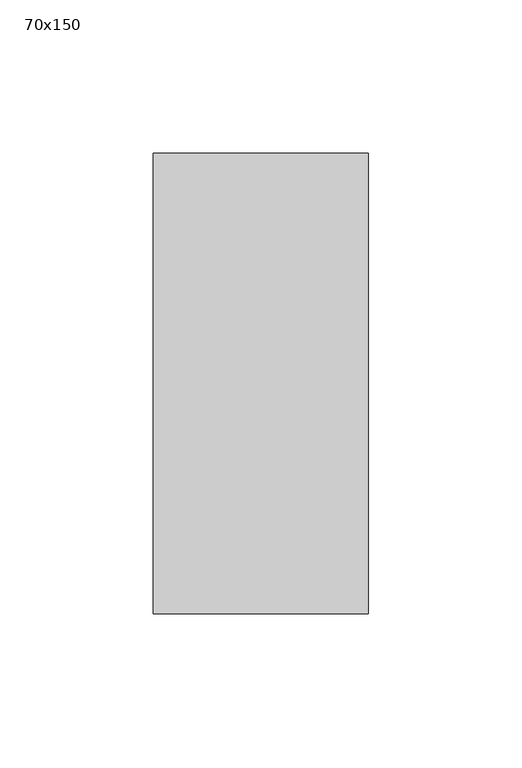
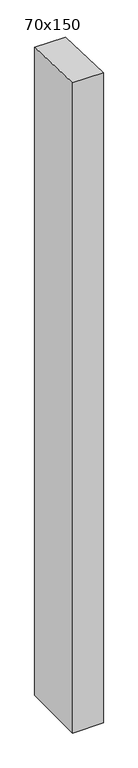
"""IFC4 building model written with IfcOpenShell, lengths in millimetres: member geometry, 長方形のマリオン : 70x150."""

import ifcopenshell
import ifcopenshell.guid

model = None  # the IFC model being written
_history = None  # IfcOwnerHistory: only IFC2X3 demands one
_inside = {}  # id of a spatial element -> (the spatial element, [elements in it])
_under = {}  # id of a project, library or spatial element -> (it, [spatial elements below it])
_declared = {}  # id of a project -> (the project, [libraries it declares])
_typed = {}  # id of a type object -> (the type object, [elements of that type])
_made_of = {}  # id of a material, layer set ... -> (it, [elements and type objects made of it])


def new_model(schema):
    """Start an empty IFC model of exactly this schema.

    Asked for "IFC4X3", IfcOpenShell would pick the latest addendum, in which some entities
    have other attributes; the version numbers below select the first issue.
    IFC2X3 requires an IfcOwnerHistory on every rooted entity: one is made here for all.
    """
    global model, _history
    if schema == "IFC4X3":
        model = ifcopenshell.file(schema_version=(4, 3, 0, 0))
    else:
        model = ifcopenshell.file(schema=schema)
    _inside.clear()
    _under.clear()
    _declared.clear()
    _typed.clear()
    _made_of.clear()
    _history = None
    if model.schema == "IFC2X3":
        org = make("IfcOrganization", Name="unknown")
        user = make(
            "IfcPersonAndOrganization",
            ThePerson=make("IfcPerson", FamilyName="unknown"),
            TheOrganization=org,
        )
        app = make(
            "IfcApplication",
            ApplicationDeveloper=org,
            Version="unknown",
            ApplicationFullName="unknown",
            ApplicationIdentifier="unknown",
        )
        _history = make(
            "IfcOwnerHistory",
            OwningUser=user,
            OwningApplication=app,
            ChangeAction="ADDED",
            CreationDate=0,
        )
    return model


def make(cls, **values):
    """One entity of the class cls with the attributes given. An attribute that is None is left unset."""
    return model.create_entity(
        cls, **{name: value for name, value in values.items() if value is not None}
    )


def rooted(cls, **values):
    """An entity with a GlobalId (a new one), such as an element, a storey or a relation."""
    return make(cls, GlobalId=ifcopenshell.guid.new(), OwnerHistory=_history, **values)


def si_unit(unit_type, name, prefix=None):
    """IfcSIUnit, for example si_unit("LENGTHUNIT", "METRE", prefix="MILLI")."""
    return make("IfcSIUnit", UnitType=unit_type, Prefix=prefix, Name=name)


def assignment(units):
    """IfcUnitAssignment: the units of a project."""
    return None if units is None else make("IfcUnitAssignment", Units=units)


def point(xyz):
    """IfcCartesianPoint."""
    return None if xyz is None else make("IfcCartesianPoint", Coordinates=xyz)


def direction(xyz):
    """IfcDirection."""
    return None if xyz is None else make("IfcDirection", DirectionRatios=xyz)


def frame(location, z_axis=None, x_axis=None):
    """IfcAxis2Placement3D, a coordinate frame: its origin and axes. An axis left out is left unset."""
    return make(
        "IfcAxis2Placement3D",
        Location=point(location),
        Axis=direction(z_axis),
        RefDirection=direction(x_axis),
    )


def origin():
    """The frame at (0, 0, 0) with its axes left unset."""
    return frame((0.0, 0.0, 0.0))


def place(relative_to, where):
    """IfcLocalPlacement: puts the frame where relative to a parent placement (None: the world)."""
    return make(
        "IfcLocalPlacement", PlacementRelTo=relative_to, RelativePlacement=where
    )


def context(
    kind, dimensions, precision=None, world=None, true_north=None, identifier=None
):
    """IfcGeometricRepresentationContext, for example the 3D "Model" context."""
    return make(
        "IfcGeometricRepresentationContext",
        ContextIdentifier=identifier,
        ContextType=kind,
        CoordinateSpaceDimension=dimensions,
        Precision=precision,
        WorldCoordinateSystem=world,
        TrueNorth=true_north,
    )


def project(units=None, contexts=None):
    """IfcProject with its units and contexts."""
    return rooted(
        "IfcProject",
        Name="project",
        RepresentationContexts=contexts,
        UnitsInContext=assignment(units),
    )


def spatial(cls, under=None, at=None, **own):
    """A site, building, storey or space (cls), placed at a placement, below another one or the project."""
    s = rooted(cls, ObjectPlacement=at, **own)
    if under is not None:
        _under.setdefault(under.id(), (under, []))[1].append(s)
    return s


def polyline(points):
    """IfcPolyline through the points."""
    return make("IfcPolyline", Points=[point(p) for p in points])


def outline(outer, holes=None, kind="AREA"):
    """IfcArbitraryClosedProfileDef: a profile drawn as a closed curve; with holes, ...WithVoids."""
    if holes is None:
        return make("IfcArbitraryClosedProfileDef", ProfileType=kind, OuterCurve=outer)
    return make(
        "IfcArbitraryProfileDefWithVoids",
        ProfileType=kind,
        OuterCurve=outer,
        InnerCurves=holes,
    )


def extrude(swept, where, along, depth):
    """IfcExtrudedAreaSolid: the profile swept, set in the frame where, extruded along a direction by depth."""
    return make(
        "IfcExtrudedAreaSolid",
        SweptArea=swept,
        Position=where,
        ExtrudedDirection=direction(along),
        Depth=depth,
    )


def shape(context_of_items, identifier, shape_type, items):
    """IfcShapeRepresentation: the items that make up one representation, for example the "Body"."""
    return make(
        "IfcShapeRepresentation",
        ContextOfItems=context_of_items,
        RepresentationIdentifier=identifier,
        RepresentationType=shape_type,
        Items=items,
    )


def source(mapping_origin, context_of_items, identifier, shape_type, items):
    """IfcRepresentationMap: a shape defined once, which mapped items show again and again."""
    return make(
        "IfcRepresentationMap",
        MappingOrigin=mapping_origin,
        MappedRepresentation=shape(context_of_items, identifier, shape_type, items),
    )


def transform(
    local_origin,
    x_axis=None,
    y_axis=None,
    z_axis=None,
    scale=None,
    scale2=None,
    scale3=None,
    uniform=True,
):
    """IfcCartesianTransformationOperator3D, or its non-uniform kind. x_axis, y_axis, z_axis: its Axis1, 2, 3."""
    if uniform:
        return make(
            "IfcCartesianTransformationOperator3D",
            Axis1=direction(x_axis),
            Axis2=direction(y_axis),
            LocalOrigin=point(local_origin),
            Scale=scale,
            Axis3=direction(z_axis),
        )
    return make(
        "IfcCartesianTransformationOperator3DnonUniform",
        Axis1=direction(x_axis),
        Axis2=direction(y_axis),
        LocalOrigin=point(local_origin),
        Scale=scale,
        Axis3=direction(z_axis),
        Scale2=scale2,
        Scale3=scale3,
    )


def mapped(mapping_source, mapping_target):
    """IfcMappedItem: shows the shape of a source again, moved by a transform."""
    return make(
        "IfcMappedItem", MappingSource=mapping_source, MappingTarget=mapping_target
    )


def made_of(thing, what):
    """Note that an element or type object is made of a material, layer set ...; save() writes the relation."""
    if what is not None:
        _made_of.setdefault(what.id(), (what, []))[1].append(thing)
    return thing


def element(
    cls,
    number,
    at=None,
    inside=None,
    cuts=None,
    type_object=None,
    material=None,
    context=None,
    identifier="Body",
    shape_type=None,
    held_by="IfcProductDefinitionShape",
    body=None,
    shapes=None,
    **own,
):
    """One element of the class cls, such as IfcWall. Its Tag is "e" and its number.

    at: its placement. inside: the storey or other place that contains it. cuts: it is an
    opening in that element (IfcRelVoidsElement). A single representation is given by context,
    identifier, shape_type and body (its items); several are given by shapes. held_by: the class
    of the entity that holds the representations. save() writes the other relations.
    """
    e = rooted(cls, Tag="e%d" % number, ObjectPlacement=at, **own)
    if body is not None:
        shapes = [shape(context, identifier, shape_type, body)]
    if shapes is not None:
        e.Representation = make(held_by, Representations=shapes)
    if inside is not None:
        _inside.setdefault(inside.id(), (inside, []))[1].append(e)
    if cuts is not None:
        rooted(
            "IfcRelVoidsElement", RelatingBuildingElement=cuts, RelatedOpeningElement=e
        )
    if type_object is not None:
        _typed.setdefault(type_object.id(), (type_object, []))[1].append(e)
    return made_of(e, material)


def aggregate(whole, parts):
    """IfcRelAggregates: a whole, such as a stair, and the parts it consists of."""
    return rooted("IfcRelAggregates", RelatingObject=whole, RelatedObjects=parts)


def save(model, path):
    """Write the relations noted so far, then the file.

    IfcRelAggregates (storeys below a building ...), IfcRelContainedInSpatialStructure (elements
    in a storey), IfcRelDefinesByType, IfcRelAssociatesMaterial and IfcRelDeclares: one each for
    every whole, place, type object, material and project.
    """
    for whole, parts in _under.values():
        aggregate(whole, parts)
    for where, things in _inside.values():
        rooted(
            "IfcRelContainedInSpatialStructure",
            RelatedElements=things,
            RelatingStructure=where,
        )
    for kind, things in _typed.values():
        rooted("IfcRelDefinesByType", RelatedObjects=things, RelatingType=kind)
    for what, things in _made_of.values():
        rooted("IfcRelAssociatesMaterial", RelatedObjects=things, RelatingMaterial=what)
    for by, libraries in _declared.values():
        rooted("IfcRelDeclares", RelatingContext=by, RelatedDefinitions=libraries)
    model.write(path)


def member_70x150_10f8ced3(model_context):
    return source(origin(), model_context, "Body", "SweptSolid", [
        extrude(outline(polyline([(-75.0, 2.8650935), (75.0, -2.8650935), (75.0, -1565.5679589), (-75.0, -1565.5679589), (-75.0, 2.8650935)])), frame((-70.0, 0.0, 0.0), z_axis=(1.0, 0.0, 0.0), x_axis=(0.0, 1.0, 0.0)), (0.0, 0.0, 1.0), 70.0),
    ])


if __name__ == "__main__":
    model = new_model("IFC4")
    model_context = context("Model", 3, world=origin())
    ifc_project = project(units=[si_unit("LENGTHUNIT", "METRE", prefix="MILLI")], contexts=[model_context])
    site = spatial("IfcSite", under=ifc_project)
    building = spatial("IfcBuilding", under=site)
    placement = place(None, origin())
    member_70x150_shape = member_70x150_10f8ced3(model_context)
    element("IfcMember", 1, ObjectType="長方形のマリオン : 70x150", at=placement, inside=building, context=model_context, shape_type="MappedRepresentation", body=[
        mapped(member_70x150_shape, transform((0.0, 0.0, 0.0), x_axis=(1.0, 0.0, 0.0), y_axis=(0.0, 1.0, 0.0), z_axis=(0.0, 0.0, 1.0))),
    ])
    save(model, "model.ifc")
